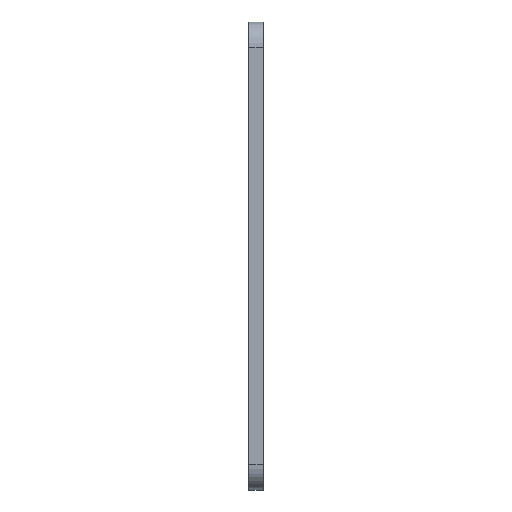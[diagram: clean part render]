
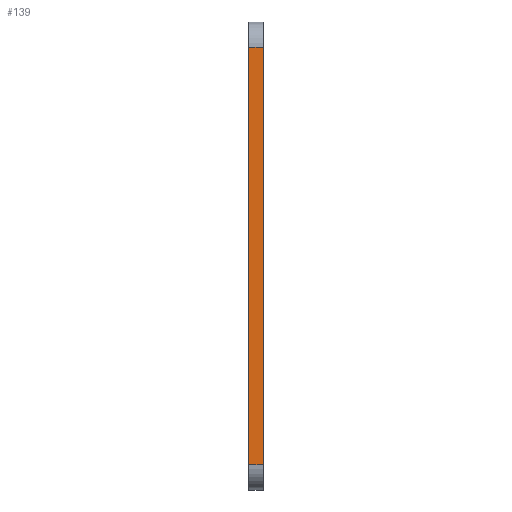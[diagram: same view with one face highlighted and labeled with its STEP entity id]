
A CAD part, left-side view. The second image highlights one B-rep face of the part: STEP entity #139.
In plain terms, the highlighted planar face has unit normal (-1, 0, 0).
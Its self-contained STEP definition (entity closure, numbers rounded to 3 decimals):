
#21 = EDGE_CURVE('',#22,#24,#26,.T.);
#22 = VERTEX_POINT('',#23);
#23 = CARTESIAN_POINT('',(-42.5,1.45,25.));
#24 = VERTEX_POINT('',#25);
#25 = CARTESIAN_POINT('',(-42.5,-0.25,25.));
#26 = SURFACE_CURVE('',#27,(#31,#43),.PCURVE_S1.);
#27 = LINE('',#28,#29);
#28 = CARTESIAN_POINT('',(-42.5,1.45,25.));
#29 = VECTOR('',#30,1.);
#30 = DIRECTION('',(0.,-1.,0.));
#31 = PCURVE('',#32,#37);
#32 = CYLINDRICAL_SURFACE('',#33,3.);
#33 = AXIS2_PLACEMENT_3D('',#34,#35,#36);
#34 = CARTESIAN_POINT('',(-39.5,1.45,25.));
#35 = DIRECTION('',(0.,1.,0.));
#36 = DIRECTION('',(1.,0.,0.));
#37 = DEFINITIONAL_REPRESENTATION('',(#38),#42);
#38 = LINE('',#39,#40);
#39 = CARTESIAN_POINT('',(3.142,0.));
#40 = VECTOR('',#41,1.);
#41 = DIRECTION('',(0.,-1.));
#42 = ( GEOMETRIC_REPRESENTATION_CONTEXT(2) 
PARAMETRIC_REPRESENTATION_CONTEXT() REPRESENTATION_CONTEXT('2D SPACE',''
  ) );
#43 = PCURVE('',#44,#49);
#44 = PLANE('',#45);
#45 = AXIS2_PLACEMENT_3D('',#46,#47,#48);
#46 = CARTESIAN_POINT('',(-42.5,1.45,-25.));
#47 = DIRECTION('',(-1.,0.,0.));
#48 = DIRECTION('',(0.,0.,1.));
#49 = DEFINITIONAL_REPRESENTATION('',(#50),#54);
#50 = LINE('',#51,#52);
#51 = CARTESIAN_POINT('',(50.,0.));
#52 = VECTOR('',#53,1.);
#53 = DIRECTION('',(0.,-1.));
#54 = ( GEOMETRIC_REPRESENTATION_CONTEXT(2) 
PARAMETRIC_REPRESENTATION_CONTEXT() REPRESENTATION_CONTEXT('2D SPACE',''
  ) );
#73 = PLANE('',#74);
#74 = AXIS2_PLACEMENT_3D('',#75,#76,#77);
#75 = CARTESIAN_POINT('',(0.,-0.25,
    0.));
#76 = DIRECTION('',(0.,1.,0.));
#77 = DIRECTION('',(1.,0.,0.));
#128 = PLANE('',#129);
#129 = AXIS2_PLACEMENT_3D('',#130,#131,#132);
#130 = CARTESIAN_POINT('',(0.,1.45,0.)
  );
#131 = DIRECTION('',(0.,1.,0.));
#132 = DIRECTION('',(1.,0.,0.));
#139 = ADVANCED_FACE('',(#140),#44,.T.);
#140 = FACE_BOUND('',#141,.T.);
#141 = EDGE_LOOP('',(#142,#172,#193,#194));
#142 = ORIENTED_EDGE('',*,*,#143,.T.);
#143 = EDGE_CURVE('',#144,#146,#148,.T.);
#144 = VERTEX_POINT('',#145);
#145 = CARTESIAN_POINT('',(-42.5,1.45,-25.));
#146 = VERTEX_POINT('',#147);
#147 = CARTESIAN_POINT('',(-42.5,-0.25,-25.));
#148 = SURFACE_CURVE('',#149,(#153,#160),.PCURVE_S1.);
#149 = LINE('',#150,#151);
#150 = CARTESIAN_POINT('',(-42.5,1.45,-25.));
#151 = VECTOR('',#152,1.);
#152 = DIRECTION('',(0.,-1.,0.));
#153 = PCURVE('',#44,#154);
#154 = DEFINITIONAL_REPRESENTATION('',(#155),#159);
#155 = LINE('',#156,#157);
#156 = CARTESIAN_POINT('',(0.,0.));
#157 = VECTOR('',#158,1.);
#158 = DIRECTION('',(0.,-1.));
#159 = ( GEOMETRIC_REPRESENTATION_CONTEXT(2) 
PARAMETRIC_REPRESENTATION_CONTEXT() REPRESENTATION_CONTEXT('2D SPACE',''
  ) );
#160 = PCURVE('',#161,#166);
#161 = CYLINDRICAL_SURFACE('',#162,3.);
#162 = AXIS2_PLACEMENT_3D('',#163,#164,#165);
#163 = CARTESIAN_POINT('',(-39.5,1.45,-25.));
#164 = DIRECTION('',(0.,1.,0.));
#165 = DIRECTION('',(1.,0.,0.));
#166 = DEFINITIONAL_REPRESENTATION('',(#167),#171);
#167 = LINE('',#168,#169);
#168 = CARTESIAN_POINT('',(3.142,0.));
#169 = VECTOR('',#170,1.);
#170 = DIRECTION('',(0.,-1.));
#171 = ( GEOMETRIC_REPRESENTATION_CONTEXT(2) 
PARAMETRIC_REPRESENTATION_CONTEXT() REPRESENTATION_CONTEXT('2D SPACE',''
  ) );
#172 = ORIENTED_EDGE('',*,*,#173,.T.);
#173 = EDGE_CURVE('',#146,#24,#174,.T.);
#174 = SURFACE_CURVE('',#175,(#179,#186),.PCURVE_S1.);
#175 = LINE('',#176,#177);
#176 = CARTESIAN_POINT('',(-42.5,-0.25,-25.));
#177 = VECTOR('',#178,1.);
#178 = DIRECTION('',(0.,0.,1.));
#179 = PCURVE('',#44,#180);
#180 = DEFINITIONAL_REPRESENTATION('',(#181),#185);
#181 = LINE('',#182,#183);
#182 = CARTESIAN_POINT('',(0.,-1.7));
#183 = VECTOR('',#184,1.);
#184 = DIRECTION('',(1.,0.));
#185 = ( GEOMETRIC_REPRESENTATION_CONTEXT(2) 
PARAMETRIC_REPRESENTATION_CONTEXT() REPRESENTATION_CONTEXT('2D SPACE',''
  ) );
#186 = PCURVE('',#73,#187);
#187 = DEFINITIONAL_REPRESENTATION('',(#188),#192);
#188 = LINE('',#189,#190);
#189 = CARTESIAN_POINT('',(-42.5,25.));
#190 = VECTOR('',#191,1.);
#191 = DIRECTION('',(0.,-1.));
#192 = ( GEOMETRIC_REPRESENTATION_CONTEXT(2) 
PARAMETRIC_REPRESENTATION_CONTEXT() REPRESENTATION_CONTEXT('2D SPACE',''
  ) );
#193 = ORIENTED_EDGE('',*,*,#21,.F.);
#194 = ORIENTED_EDGE('',*,*,#195,.F.);
#195 = EDGE_CURVE('',#144,#22,#196,.T.);
#196 = SURFACE_CURVE('',#197,(#201,#208),.PCURVE_S1.);
#197 = LINE('',#198,#199);
#198 = CARTESIAN_POINT('',(-42.5,1.45,-25.));
#199 = VECTOR('',#200,1.);
#200 = DIRECTION('',(0.,0.,1.));
#201 = PCURVE('',#44,#202);
#202 = DEFINITIONAL_REPRESENTATION('',(#203),#207);
#203 = LINE('',#204,#205);
#204 = CARTESIAN_POINT('',(0.,0.));
#205 = VECTOR('',#206,1.);
#206 = DIRECTION('',(1.,0.));
#207 = ( GEOMETRIC_REPRESENTATION_CONTEXT(2) 
PARAMETRIC_REPRESENTATION_CONTEXT() REPRESENTATION_CONTEXT('2D SPACE',''
  ) );
#208 = PCURVE('',#128,#209);
#209 = DEFINITIONAL_REPRESENTATION('',(#210),#214);
#210 = LINE('',#211,#212);
#211 = CARTESIAN_POINT('',(-42.5,25.));
#212 = VECTOR('',#213,1.);
#213 = DIRECTION('',(0.,-1.));
#214 = ( GEOMETRIC_REPRESENTATION_CONTEXT(2) 
PARAMETRIC_REPRESENTATION_CONTEXT() REPRESENTATION_CONTEXT('2D SPACE',''
  ) );
